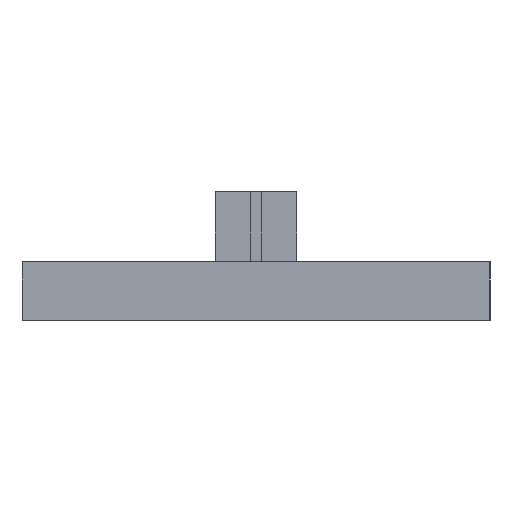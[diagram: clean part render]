
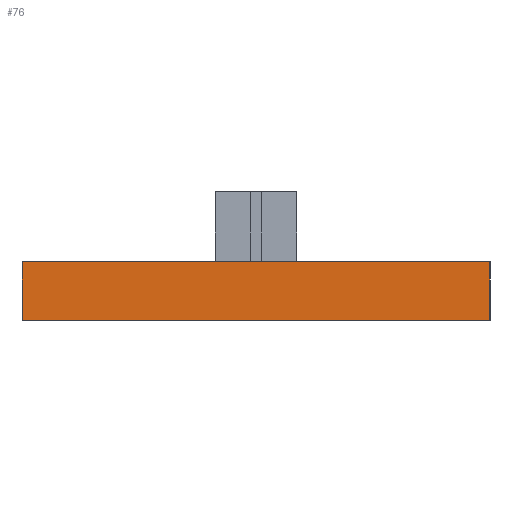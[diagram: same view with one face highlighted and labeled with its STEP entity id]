
A CAD part, left-side view. The second image highlights one B-rep face of the part: STEP entity #76.
In plain terms, the highlighted planar face has unit normal (-1, 0, 0).
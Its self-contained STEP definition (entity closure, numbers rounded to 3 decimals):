
#21 = ORIENTED_EDGE ( 'NONE', *, *, #950, .T. ) ;
#27 = PLANE ( 'NONE',  #590 ) ;
#54 = ORIENTED_EDGE ( 'NONE', *, *, #109, .F. ) ;
#76 = ADVANCED_FACE ( 'NONE', ( #490 ), #27, .F. ) ;
#85 = DIRECTION ( 'NONE',  ( 0., -1., 0. ) ) ;
#108 = CARTESIAN_POINT ( 'NONE',  ( -40., -20., -2.5 ) ) ;
#109 = EDGE_CURVE ( 'NONE', #1175, #291, #321, .T. ) ;
#203 = CARTESIAN_POINT ( 'NONE',  ( -40., 20., 2.5 ) ) ;
#211 = DIRECTION ( 'NONE',  ( 0., 0., -1. ) ) ;
#291 = VERTEX_POINT ( 'NONE', #1075 ) ;
#321 = LINE ( 'NONE', #203, #840 ) ;
#331 = CARTESIAN_POINT ( 'NONE',  ( -40., -20., 2.5 ) ) ;
#396 = CARTESIAN_POINT ( 'NONE',  ( -40., 20., 2.5 ) ) ;
#439 = CARTESIAN_POINT ( 'NONE',  ( -40., 20., -2.5 ) ) ;
#463 = LINE ( 'NONE', #331, #856 ) ;
#468 = ORIENTED_EDGE ( 'NONE', *, *, #481, .F. ) ;
#481 = EDGE_CURVE ( 'NONE', #291, #675, #463, .T. ) ;
#490 = FACE_OUTER_BOUND ( 'NONE', #831, .T. ) ;
#496 = ORIENTED_EDGE ( 'NONE', *, *, #1071, .T. ) ;
#527 = VECTOR ( 'NONE', #688, 1000. ) ;
#590 = AXIS2_PLACEMENT_3D ( 'NONE', #983, #870, #742 ) ;
#610 = VERTEX_POINT ( 'NONE', #439 ) ;
#675 = VERTEX_POINT ( 'NONE', #108 ) ;
#688 = DIRECTION ( 'NONE',  ( 0., 0., -1. ) ) ;
#742 = DIRECTION ( 'NONE',  ( 0., 1., 0. ) ) ;
#812 = CARTESIAN_POINT ( 'NONE',  ( -40., 20., 2.5 ) ) ;
#831 = EDGE_LOOP ( 'NONE', ( #21, #468, #54, #496 ) ) ;
#835 = DIRECTION ( 'NONE',  ( 0., -1., 0. ) ) ;
#840 = VECTOR ( 'NONE', #85, 1000. ) ;
#856 = VECTOR ( 'NONE', #211, 1000. ) ;
#870 = DIRECTION ( 'NONE',  ( 1., 0., 0. ) ) ;
#931 = VECTOR ( 'NONE', #835, 1000. ) ;
#938 = LINE ( 'NONE', #812, #527 ) ;
#950 = EDGE_CURVE ( 'NONE', #610, #675, #1077, .T. ) ;
#960 = CARTESIAN_POINT ( 'NONE',  ( -40., 20., -2.5 ) ) ;
#983 = CARTESIAN_POINT ( 'NONE',  ( -40., 20., 2.5 ) ) ;
#1071 = EDGE_CURVE ( 'NONE', #1175, #610, #938, .T. ) ;
#1075 = CARTESIAN_POINT ( 'NONE',  ( -40., -20., 2.5 ) ) ;
#1077 = LINE ( 'NONE', #960, #931 ) ;
#1175 = VERTEX_POINT ( 'NONE', #396 ) ;
